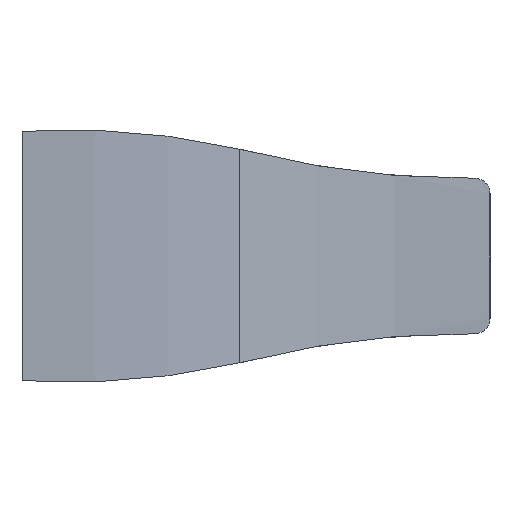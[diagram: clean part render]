
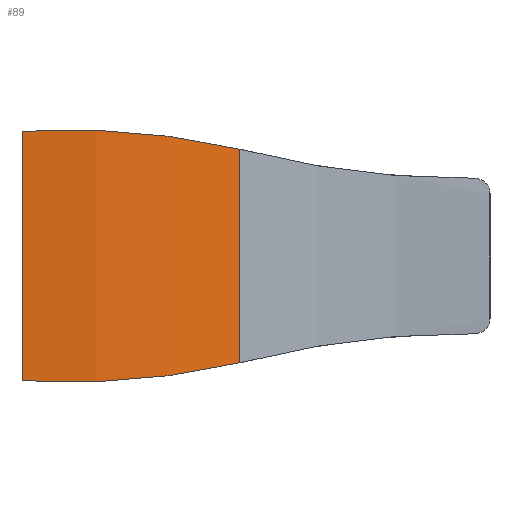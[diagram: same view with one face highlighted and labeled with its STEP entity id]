
A CAD part, left-side view. The second image highlights one B-rep face of the part: STEP entity #89.
In plain terms, the highlighted cylindrical face has radius 48.44 mm (diameter 96.88 mm), a partial arc.
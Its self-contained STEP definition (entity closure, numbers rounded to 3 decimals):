
#89 = ADVANCED_FACE( '', ( #138 ), #139, .T. );
#138 = FACE_OUTER_BOUND( '', #207, .T. );
#139 = CYLINDRICAL_SURFACE( '', #208, 48.44 );
#207 = EDGE_LOOP( '', ( #357, #358, #359, #360 ) );
#208 = AXIS2_PLACEMENT_3D( '', #361, #362, #363 );
#357 = ORIENTED_EDGE( '', *, *, #549, .F. );
#358 = ORIENTED_EDGE( '', *, *, #550, .F. );
#359 = ORIENTED_EDGE( '', *, *, #551, .F. );
#360 = ORIENTED_EDGE( '', *, *, #544, .F. );
#361 = CARTESIAN_POINT( '', ( 40.345, -3.036, 150. ) );
#362 = DIRECTION( '', ( 0., 0., 1. ) );
#363 = DIRECTION( '', ( -0.974, -0.226, 0. ) );
#544 = EDGE_CURVE( '', #635, #656, #657, .T. );
#549 = EDGE_CURVE( '', #664, #635, #665, .T. );
#550 = EDGE_CURVE( '', #666, #664, #667, .T. );
#551 = EDGE_CURVE( '', #656, #666, #668, .T. );
#635 = VERTEX_POINT( '', #784 );
#656 = VERTEX_POINT( '', #833 );
#657 = LINE( '', #834, #835 );
#664 = VERTEX_POINT( '', #845 );
#665 = ELLIPSE( '', #846, 68.505, 48.44 );
#666 = VERTEX_POINT( '', #847 );
#667 = LINE( '', #848, #849 );
#668 = ELLIPSE( '', #850, 68.505, 48.44 );
#784 = CARTESIAN_POINT( '', ( -6.845, -13.972, 6.845 ) );
#833 = CARTESIAN_POINT( '', ( -6.845, -13.972, -6.845 ) );
#834 = CARTESIAN_POINT( '', ( -6.845, -13.972, 150. ) );
#835 = VECTOR( '', #1005, 1. );
#845 = CARTESIAN_POINT( '', ( -8., 0., 8. ) );
#846 = AXIS2_PLACEMENT_3D( '', #1012, #1013, #1014 );
#847 = CARTESIAN_POINT( '', ( -8., 0., -8. ) );
#848 = CARTESIAN_POINT( '', ( -8., 0., 0. ) );
#849 = VECTOR( '', #1015, 1. );
#850 = AXIS2_PLACEMENT_3D( '', #1016, #1017, #1018 );
#1005 = DIRECTION( '', ( 0., 0., -1. ) );
#1012 = CARTESIAN_POINT( '', ( 40.345, -3.036, -40.345 ) );
#1013 = DIRECTION( '', ( 0.707, 0., 0.707 ) );
#1014 = DIRECTION( '', ( -0.707, 0., 0.707 ) );
#1015 = DIRECTION( '', ( 0., 0., 1. ) );
#1016 = CARTESIAN_POINT( '', ( 40.345, -3.036, 40.345 ) );
#1017 = DIRECTION( '', ( 0.707, 0., -0.707 ) );
#1018 = DIRECTION( '', ( -0.707, 0., -0.707 ) );
